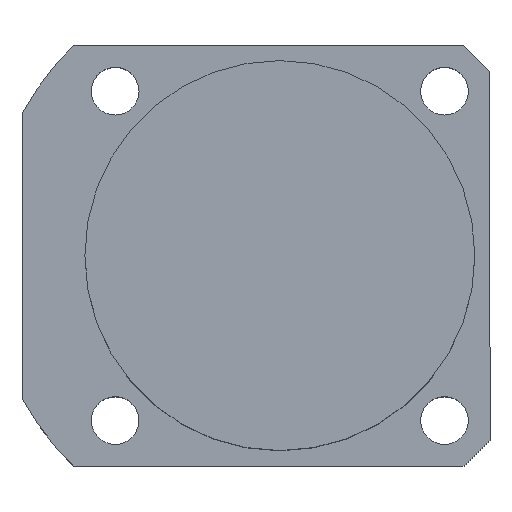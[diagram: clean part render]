
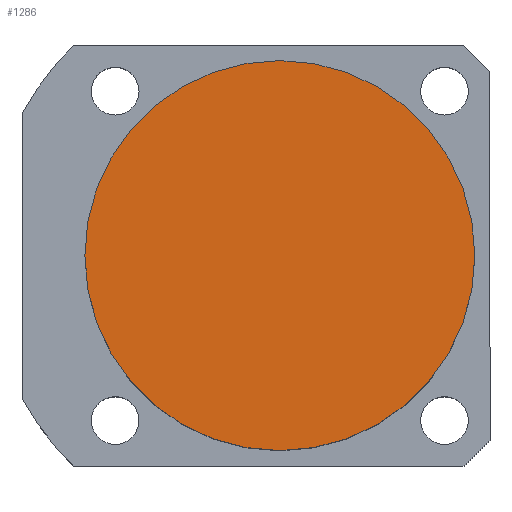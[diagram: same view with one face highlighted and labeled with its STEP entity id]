
A CAD part, top view. The second image highlights one B-rep face of the part: STEP entity #1286.
In plain terms, the highlighted planar face has unit normal (0, 0, 1).
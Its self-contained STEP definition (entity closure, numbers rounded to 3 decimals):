
#28 = DIRECTION ( 'NONE',  ( 1., 0., 0. ) ) ;
#54 = DIRECTION ( 'NONE',  ( 1., 0., 0. ) ) ;
#177 = DIRECTION ( 'NONE',  ( 0., 0., 1. ) ) ;
#194 = AXIS2_PLACEMENT_3D ( 'NONE', #700, #538, #28 ) ;
#296 = VERTEX_POINT ( 'NONE', #679 ) ;
#320 = AXIS2_PLACEMENT_3D ( 'NONE', #1674, #177, #54 ) ;
#400 = VERTEX_POINT ( 'NONE', #1773 ) ;
#460 = PLANE ( 'NONE',  #320 ) ;
#469 = ORIENTED_EDGE ( 'NONE', *, *, #1689, .T. ) ;
#505 = FACE_OUTER_BOUND ( 'NONE', #1503, .T. ) ;
#538 = DIRECTION ( 'NONE',  ( 0., 0., 1. ) ) ;
#569 = AXIS2_PLACEMENT_3D ( 'NONE', #951, #653, #935 ) ;
#653 = DIRECTION ( 'NONE',  ( 0., 0., 1. ) ) ;
#679 = CARTESIAN_POINT ( 'NONE',  ( -45., 0., 54.5 ) ) ;
#700 = CARTESIAN_POINT ( 'NONE',  ( 0., 0., 54.5 ) ) ;
#856 = EDGE_CURVE ( 'NONE', #296, #400, #1612, .T. ) ;
#935 = DIRECTION ( 'NONE',  ( 1., 0., 0. ) ) ;
#951 = CARTESIAN_POINT ( 'NONE',  ( 0., 0., 54.5 ) ) ;
#1233 = CIRCLE ( 'NONE', #569, 45. ) ;
#1286 = ADVANCED_FACE ( 'NONE', ( #505 ), #460, .T. ) ;
#1447 = ORIENTED_EDGE ( 'NONE', *, *, #856, .T. ) ;
#1503 = EDGE_LOOP ( 'NONE', ( #1447, #469 ) ) ;
#1612 = CIRCLE ( 'NONE', #194, 45. ) ;
#1674 = CARTESIAN_POINT ( 'NONE',  ( 0., 0., 54.5 ) ) ;
#1689 = EDGE_CURVE ( 'NONE', #400, #296, #1233, .T. ) ;
#1773 = CARTESIAN_POINT ( 'NONE',  ( 45., 0., 54.5 ) ) ;
